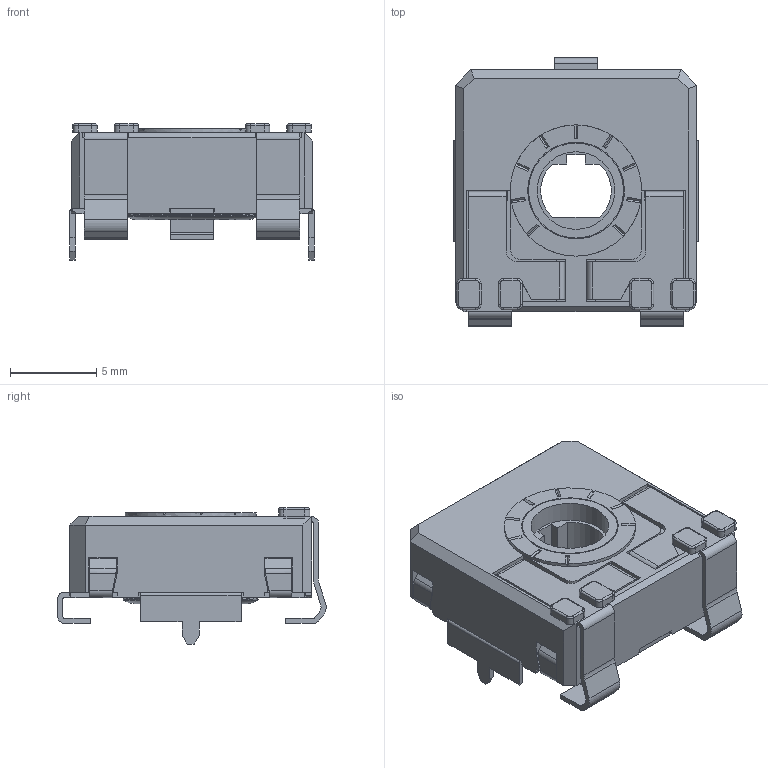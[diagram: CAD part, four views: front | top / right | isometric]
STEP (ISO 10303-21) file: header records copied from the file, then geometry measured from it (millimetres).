
FILE_DESCRIPTION(/* description */ (''),/* implementation_level */ '2;1');
FILE_NAME(/* name */ 'C:\Users\CEM\Desktop\ENVIAR\TRANSICION 3D CATALOGOS\RS14TVSMD CY.stp',/* time_stamp */ '2025-12-10T12:18:00+01:00',/* author */ ('CEM'),/* organization */ (''),/* preprocessor_version */ 'ST-DEVELOPER v16.13',/* originating_system */ 'Autodesk Inventor 2018',/* authorisation */ '');
FILE_SCHEMA (('AUTOMOTIVE_DESIGN { 1 0 10303 214 3 1 1 }'));
Length unit declared in the file: millimetre
Products named in the file (1): CARCASA CA14 PGA
Bounding box: 14.15 x 15.55 x 7.9 mm (x, y, z)
Volume: 533.2 mm3; surface area: 1503.2 mm2
Topology: 1 solids, 1 shells, 573 faces, 1620 edges, 1035 vertices
Faces by surface type: plane 426, cylinder 110, torus 23, bspline 8, cone 6
Full cylindrical faces by diameter (mm): 4.5 x1, 5.1 x1, 5.5 x1, 5.6 x1, 5.752 x1, 6.8 x1, 7.6 x1
Entity records: 18632 total; most frequent: CARTESIAN_POINT 3418, ORIENTED_EDGE 3206, DIRECTION 3010, EDGE_CURVE 1603, LINE 1272, VECTOR 1272, VERTEX_POINT 1029, AXIS2_PLACEMENT_3D 869
